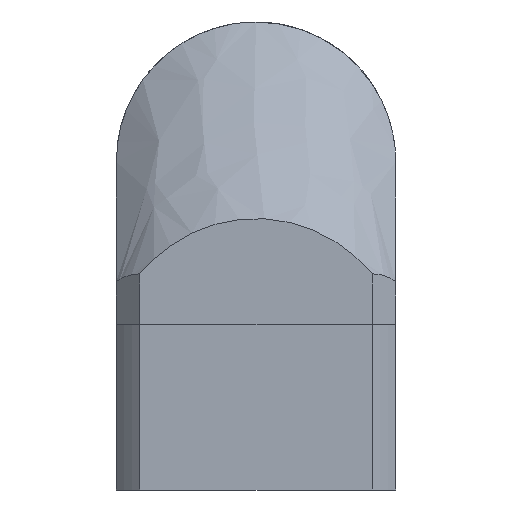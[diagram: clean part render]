
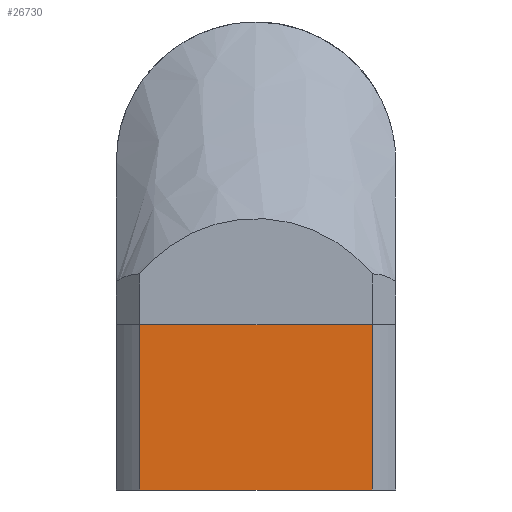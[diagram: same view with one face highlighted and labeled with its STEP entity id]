
A CAD part, front view. The second image highlights one B-rep face of the part: STEP entity #26730.
In plain terms, the highlighted planar face has unit normal (0, -1, 0).
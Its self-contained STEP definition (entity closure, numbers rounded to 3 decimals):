
#774 = EDGE_CURVE ( 'NONE', #9096, #25381, #21131, .T. ) ;
#1001 = ORIENTED_EDGE ( 'NONE', *, *, #18151, .T. ) ;
#1021 = EDGE_CURVE ( 'NONE', #2585, #24666, #17428, .T. ) ;
#1988 = CARTESIAN_POINT ( 'NONE',  ( 0., -30., 0. ) ) ;
#2585 = VERTEX_POINT ( 'NONE', #10789 ) ;
#2944 = DIRECTION ( 'NONE',  ( 0., 0., -1. ) ) ;
#6269 = VECTOR ( 'NONE', #20001, 1000. ) ;
#6604 = VECTOR ( 'NONE', #21445, 1000. ) ;
#6626 = ORIENTED_EDGE ( 'NONE', *, *, #1021, .T. ) ;
#7421 = EDGE_LOOP ( 'NONE', ( #6626, #12873, #13175, #1001 ) ) ;
#7458 = VECTOR ( 'NONE', #24665, 1000. ) ;
#8136 = FACE_OUTER_BOUND ( 'NONE', #7421, .T. ) ;
#9000 = CARTESIAN_POINT ( 'NONE',  ( -24.92, -30., -35.5 ) ) ;
#9096 = VERTEX_POINT ( 'NONE', #16027 ) ;
#10789 = CARTESIAN_POINT ( 'NONE',  ( -24.92, -30., 0. ) ) ;
#10817 = VECTOR ( 'NONE', #12948, 1000. ) ;
#11650 = PLANE ( 'NONE',  #24498 ) ;
#12873 = ORIENTED_EDGE ( 'NONE', *, *, #27962, .T. ) ;
#12948 = DIRECTION ( 'NONE',  ( -1., 0., 0. ) ) ;
#13175 = ORIENTED_EDGE ( 'NONE', *, *, #774, .F. ) ;
#13711 = CARTESIAN_POINT ( 'NONE',  ( 24.92, -30., -35.5 ) ) ;
#13824 = CARTESIAN_POINT ( 'NONE',  ( 0., -30., -35.5 ) ) ;
#16027 = CARTESIAN_POINT ( 'NONE',  ( 24.92, -30., 0. ) ) ;
#16600 = LINE ( 'NONE', #1988, #10817 ) ;
#17428 = LINE ( 'NONE', #27825, #6604 ) ;
#18151 = EDGE_CURVE ( 'NONE', #9096, #2585, #16600, .T. ) ;
#20001 = DIRECTION ( 'NONE',  ( 0., 0., -1. ) ) ;
#20413 = DIRECTION ( 'NONE',  ( 0., -1., 0. ) ) ;
#21131 = LINE ( 'NONE', #24234, #6269 ) ;
#21445 = DIRECTION ( 'NONE',  ( 0., 0., -1. ) ) ;
#22477 = CARTESIAN_POINT ( 'NONE',  ( -30., -30., -35.5 ) ) ;
#24234 = CARTESIAN_POINT ( 'NONE',  ( 24.92, -30., 0. ) ) ;
#24498 = AXIS2_PLACEMENT_3D ( 'NONE', #22477, #20413, #2944 ) ;
#24665 = DIRECTION ( 'NONE',  ( 1., 0., 0. ) ) ;
#24666 = VERTEX_POINT ( 'NONE', #9000 ) ;
#25381 = VERTEX_POINT ( 'NONE', #13711 ) ;
#26373 = LINE ( 'NONE', #13824, #7458 ) ;
#26730 = ADVANCED_FACE ( 'NONE', ( #8136 ), #11650, .T. ) ;
#27825 = CARTESIAN_POINT ( 'NONE',  ( -24.92, -30., -35.5 ) ) ;
#27962 = EDGE_CURVE ( 'NONE', #24666, #25381, #26373, .T. ) ;
